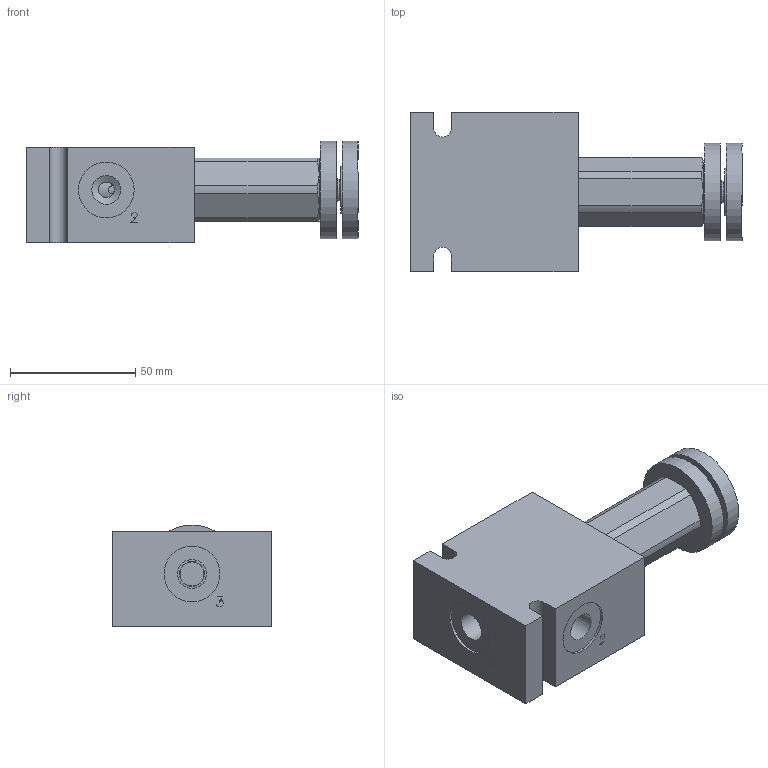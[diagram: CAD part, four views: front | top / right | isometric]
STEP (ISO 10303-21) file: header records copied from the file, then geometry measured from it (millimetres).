
FILE_DESCRIPTION( ( 'Unknown' ), '1' );
FILE_NAME( 'G:/Graphic Design/Graphic Design 2/Data Sheets/PRESSURE CONTROLS/2_STEP/Sequence Valves/D-DFPWE0K-A3.stp', 'Unknown', ( 'Unknown' ), ( 'Unknown' ), 'PSStep 16.0.42', 'Unknown', ' ' );
FILE_SCHEMA( ( 'AUTOMOTIVE_DESIGN { 1 0 10303 214 1 1 1 1 }' ) );
Length unit declared in the file: millimetre
Products named in the file (11): DFPWE0K; DFPWE0K-3D Full1; DFPWE0K-3D Full2; DFPWE0K-3D Full3; DFPWE0K-3D Full4; DFPWE0K-3D Full5; DFPWE0K-3D Full6; DFPWE0K-3D Full7; DFPWE0K-3D Full8; Assem1; B-DDFA3
Assembly tree (10 placements, depth 3):
  Assem1
    B-DDFA3
    DFPWE0K
      DFPWE0K-3D Full1
      DFPWE0K-3D Full2
      DFPWE0K-3D Full3
      DFPWE0K-3D Full4
      DFPWE0K-3D Full5
      DFPWE0K-3D Full6
      DFPWE0K-3D Full7
      DFPWE0K-3D Full8
Bounding box: 132.29 x 63.5 x 40.53 mm (x, y, z)
Surface area: 41924.4 mm2 (no closed solid volume)
Topology: 0 solids, 293 shells, 293 faces, 1230 edges, 1115 vertices
Faces by surface type: plane 133, cylinder 84, cone 71, torus 5
Full cylindrical faces by diameter (mm): 0.2 x3, 3.175 x16, 3.962 x1, 6.3 x1, 8.128 x1, 9.525 x2, 9.53 x1, 11 x1, 11.5 x5, 12.992 x1, 13.043 x1, 14 x1, 14.275 x1, 14.592 x1, 14.643 x1, 15.088 x1, 15.735 x1, 15.748 x2, 15.875 x1, 15.926 x1, 17.323 x2, 17.335 x1, 17.424 x1, 17.526 x1, 17.527 x1, 19.05 x2, 19.622 x1, 20.262 x2, 22.22 x3, 30.175 x1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
Entity records: 17090 total; most frequent: CARTESIAN_POINT 6322, DIRECTION 1586, VERTEX_POINT 1085, ORIENTED_EDGE 1082, EDGE_CURVE 1082, AXIS2_PLACEMENT_3D 657, FACE_BOUND 449, EDGE_LOOP 446
